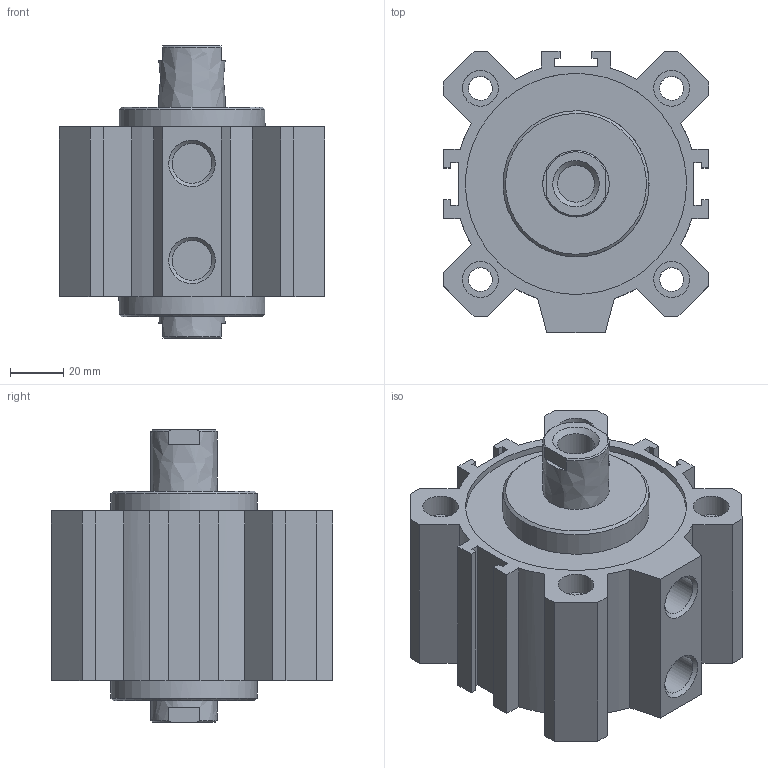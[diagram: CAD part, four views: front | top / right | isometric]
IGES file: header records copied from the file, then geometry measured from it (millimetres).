
Global section: file name: 1514_80_0015; native system: Autodesk Inventor 2014; preprocessor: unknown; author: A. Manieri; date: 20160824.142330; units: millimetre
Bounding box: 100 x 106 x 110 mm (x, y, z)
Volume: 480817.5 mm3; surface area: 107335.5 mm2
Topology: 2 solids, 2 shells, 132 faces, 346 edges, 238 vertices
Faces by surface type: bspline 132
